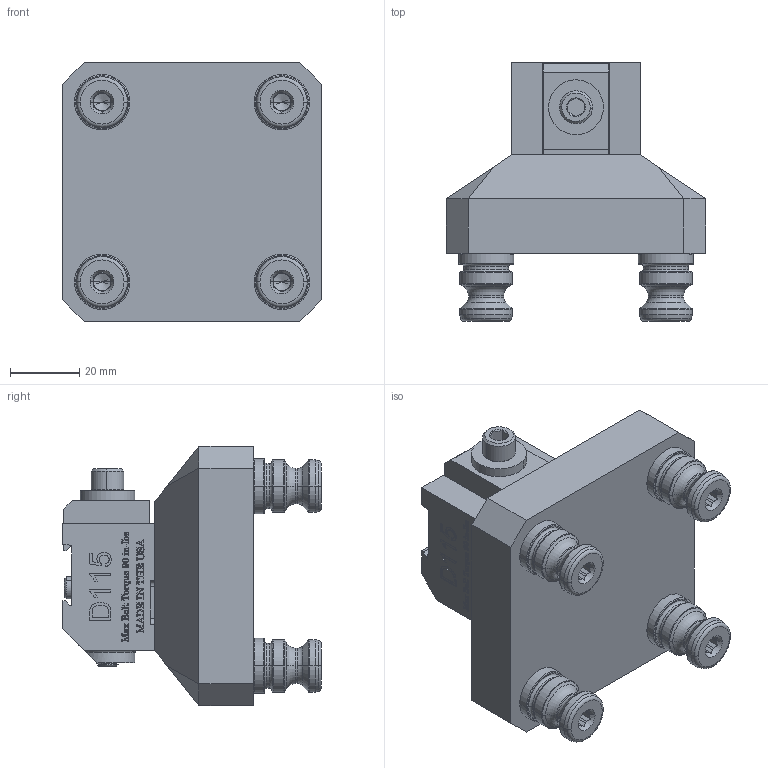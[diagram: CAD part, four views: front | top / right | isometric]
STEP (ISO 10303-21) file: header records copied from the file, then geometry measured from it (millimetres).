
FILE_DESCRIPTION (( 'STEP AP214' ), '1' );
FILE_NAME ('R52-D115.STEP', '2019-05-12T16:52:40', ( '' ), ( '' ), 'SwSTEP 2.0', 'SolidWorks 2018', '' );
FILE_SCHEMA (( 'AUTOMOTIVE_DESIGN' ));
Length unit declared in the file: millimetre
Products named in the file (14): PS16F; HW.39858.CPSS_M8X1.25X20MM; PS16F-1_PS16F; D115; 72098_91251A441; HW.LCM110E01M; 73072_DEFAULT; HW.0250.FW_DEFAULT; SLD25_SLD25; CDS25; LP250_NO THREADS ; D115-1; R52-D115-1; R52-D115
Assembly tree (19 placements, depth 3):
  R52-D115
    R52-D115-1
    D115
      D115-1
      LP250_NO THREADS   x3
      CDS25
      SLD25_SLD25
      HW.0250.FW_DEFAULT
      73072_DEFAULT
      HW.LCM110E01M
      72098_91251A441  x2
    PS16F  x4
      PS16F-1_PS16F
      HW.39858.CPSS_M8X1.25X20MM
Bounding box: 75 x 74.8 x 75 mm (x, y, z)
Volume: 176477.5 mm3; surface area: 50991.2 mm2
Topology: 20 solids, 20 shells, 2328 faces, 6123 edges, 3926 vertices
Faces by surface type: plane 908, cylinder 634, bspline 443, cone 231, torus 112
Entity records: 90560 total; most frequent: CARTESIAN_POINT 40655, ORIENTED_EDGE 9040, DIRECTION 6059, EDGE_CURVE 4520, VERTEX_POINT 2966, VECTOR 2705, LINE 2705, EDGE_LOOP 1824
